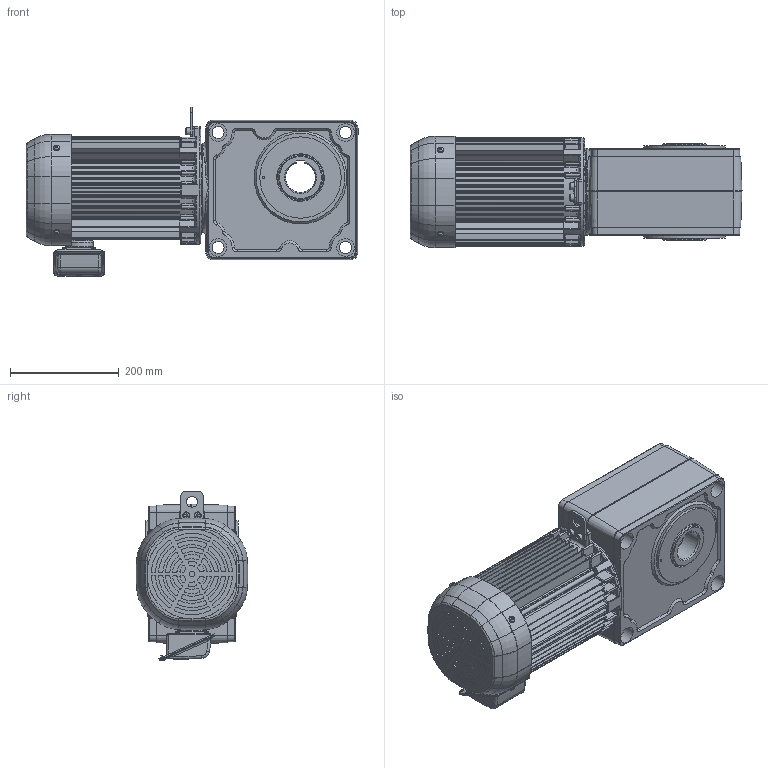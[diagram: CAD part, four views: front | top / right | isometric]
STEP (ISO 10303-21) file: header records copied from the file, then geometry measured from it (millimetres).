
FILE_DESCRIPTION( ( 'Unknown' ), '1' );
FILE_NAME( 'X:/gear/gm/3D-WEB/IE3/SHYP/ﾊﾟｰﾂ/完成品/shypfrh_22_5-120.stp', 'Unknown', ( 'Unknown' ), ( 'Unknown' ), 'PSStep 14.0', 'Unknown', ' ' );
FILE_SCHEMA( ( 'AUTOMOTIVE_DESIGN { 1 0 10303 214 1 1 1 1 }' ) );
Length unit declared in the file: millimetre
Products named in the file (7): P164084H13_ｷﾞﾔｹｰｽ(ﾌﾗﾝｼﾞE)
Bounding box: 612 x 205.84 x 313.35 mm (x, y, z)
Volume: 12753796.2 mm3; surface area: 1452202.6 mm2
Topology: 7 solids, 25 shells, 2054 faces, 5123 edges, 3180 vertices
Faces by surface type: cylinder 779, plane 762, bspline 187, torus 178, cone 140, sphere 8
Full cylindrical faces by diameter (mm): 3.6 x1, 3.8 x2, 4.2 x8, 4.8 x1, 5 x4, 5.5 x4, 5.6 x1, 5.8 x4, 6 x8, 6.647 x8, 7 x1, 8 x8, 8.376 x8, 9 x4, 9.5 x4, 10 x4, 11 x4, 12 x10, 13 x2, 14 x6, 18 x6, 20 x7, 22 x4, 23 x1, 25 x3, 26.3 x1, 28.6 x1, 32 x8, 48 x2, 50 x1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
Entity records: 107588 total; most frequent: CARTESIAN_POINT 43491, DIRECTION 10330, ORIENTED_EDGE 9530, EDGE_CURVE 4765, AXIS2_PLACEMENT_3D 4114, VERTEX_POINT 3113, EDGE_LOOP 2446, FACE_OUTER_BOUND 2228
